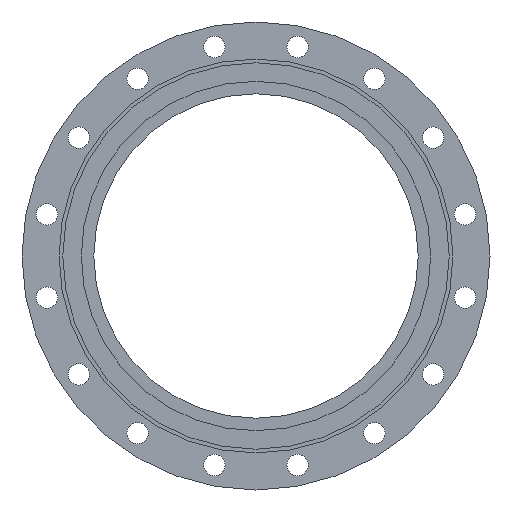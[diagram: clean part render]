
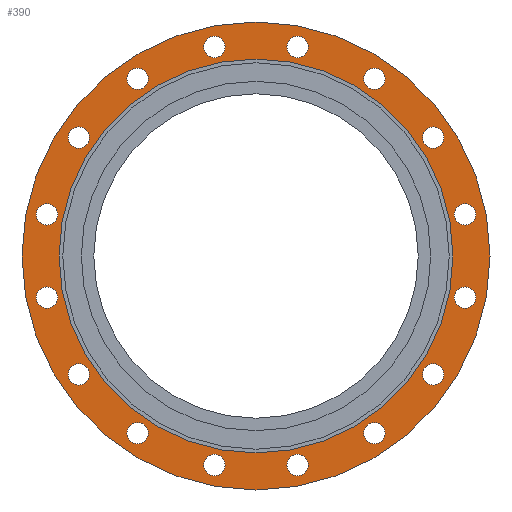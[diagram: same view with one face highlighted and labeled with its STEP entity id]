
A CAD part, left-side view. The second image highlights one B-rep face of the part: STEP entity #390.
In plain terms, the highlighted planar face has unit normal (-1, 0, 0).
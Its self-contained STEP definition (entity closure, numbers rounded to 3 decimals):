
#390=ADVANCED_FACE('',(#8469,#8471,#8473,#8475,#8477,#8479,#8481,#8483,#8485,#8487,
#8489,#8491,#8493,#8495,#8497,#8499,#8501,#8503),#8505,.T.);
#8469=FACE_BOUND('',#8470,.T.);
#8470=EDGE_LOOP('',(#14645));
#8471=FACE_BOUND('',#8472,.T.);
#8472=EDGE_LOOP('',(#14646));
#8473=FACE_BOUND('',#8474,.T.);
#8474=EDGE_LOOP('',(#14647));
#8475=FACE_BOUND('',#8476,.T.);
#8476=EDGE_LOOP('',(#14648));
#8477=FACE_BOUND('',#8478,.T.);
#8478=EDGE_LOOP('',(#14649));
#8479=FACE_BOUND('',#8480,.T.);
#8480=EDGE_LOOP('',(#14650));
#8481=FACE_BOUND('',#8482,.T.);
#8482=EDGE_LOOP('',(#14651));
#8483=FACE_BOUND('',#8484,.T.);
#8484=EDGE_LOOP('',(#14652));
#8485=FACE_BOUND('',#8486,.T.);
#8486=EDGE_LOOP('',(#14653,#14654));
#8487=FACE_BOUND('',#8488,.T.);
#8488=EDGE_LOOP('',(#14655));
#8489=FACE_BOUND('',#8490,.T.);
#8490=EDGE_LOOP('',(#14656));
#8491=FACE_BOUND('',#8492,.T.);
#8492=EDGE_LOOP('',(#14657));
#8493=FACE_BOUND('',#8494,.T.);
#8494=EDGE_LOOP('',(#14658));
#8495=FACE_BOUND('',#8496,.T.);
#8496=EDGE_LOOP('',(#14659));
#8497=FACE_BOUND('',#8498,.T.);
#8498=EDGE_LOOP('',(#14660));
#8499=FACE_BOUND('',#8500,.T.);
#8500=EDGE_LOOP('',(#14661));
#8501=FACE_BOUND('',#8502,.T.);
#8502=EDGE_LOOP('',(#14662));
#8503=FACE_BOUND('',#8504,.T.);
#8504=EDGE_LOOP('',(#14663));
#8505=PLANE('',#8506);
#8506=AXIS2_PLACEMENT_3D('',#8507,#8508,#8509);
#8507=CARTESIAN_POINT('',(22.277,211.434,0.));
#8508=DIRECTION('',(-1.,0.,0.));
#8509=DIRECTION('',(0.,0.,1.));
#14645=ORIENTED_EDGE('',*,*,#19699,.T.);
#14646=ORIENTED_EDGE('',*,*,#19669,.F.);
#14647=ORIENTED_EDGE('',*,*,#19671,.F.);
#14648=ORIENTED_EDGE('',*,*,#19673,.F.);
#14649=ORIENTED_EDGE('',*,*,#19675,.F.);
#14650=ORIENTED_EDGE('',*,*,#19677,.F.);
#14651=ORIENTED_EDGE('',*,*,#19679,.F.);
#14652=ORIENTED_EDGE('',*,*,#19681,.F.);
#14653=ORIENTED_EDGE('',*,*,#19702,.F.);
#14654=ORIENTED_EDGE('',*,*,#19703,.F.);
#14655=ORIENTED_EDGE('',*,*,#19683,.F.);
#14656=ORIENTED_EDGE('',*,*,#19685,.F.);
#14657=ORIENTED_EDGE('',*,*,#19687,.F.);
#14658=ORIENTED_EDGE('',*,*,#19689,.F.);
#14659=ORIENTED_EDGE('',*,*,#19691,.F.);
#14660=ORIENTED_EDGE('',*,*,#19693,.F.);
#14661=ORIENTED_EDGE('',*,*,#19695,.F.);
#14662=ORIENTED_EDGE('',*,*,#19697,.F.);
#14663=ORIENTED_EDGE('',*,*,#19667,.F.);
#19667=EDGE_CURVE('',#22263,#22263,#22264,.T.);
#19669=EDGE_CURVE('',#22267,#22267,#22268,.T.);
#19671=EDGE_CURVE('',#22271,#22271,#22272,.T.);
#19673=EDGE_CURVE('',#22275,#22275,#22276,.T.);
#19675=EDGE_CURVE('',#22279,#22279,#22280,.T.);
#19677=EDGE_CURVE('',#22283,#22283,#22284,.T.);
#19679=EDGE_CURVE('',#22287,#22287,#22288,.T.);
#19681=EDGE_CURVE('',#22291,#22291,#22292,.T.);
#19683=EDGE_CURVE('',#22295,#22295,#22296,.T.);
#19685=EDGE_CURVE('',#22299,#22299,#22300,.T.);
#19687=EDGE_CURVE('',#22303,#22303,#22304,.T.);
#19689=EDGE_CURVE('',#22307,#22307,#22308,.T.);
#19691=EDGE_CURVE('',#22311,#22311,#22312,.T.);
#19693=EDGE_CURVE('',#22315,#22315,#22316,.T.);
#19695=EDGE_CURVE('',#22319,#22319,#22320,.T.);
#19697=EDGE_CURVE('',#22323,#22323,#22324,.T.);
#19699=EDGE_CURVE('',#22327,#22327,#22328,.T.);
#19702=EDGE_CURVE('',#22333,#22334,#22335,.T.);
#19703=EDGE_CURVE('',#22334,#22333,#22336,.T.);
#22263=VERTEX_POINT('',#26683);
#22264=CIRCLE('',#26684,11.5);
#22267=VERTEX_POINT('',#26693);
#22268=CIRCLE('',#26694,11.5);
#22271=VERTEX_POINT('',#26703);
#22272=CIRCLE('',#26704,11.5);
#22275=VERTEX_POINT('',#26713);
#22276=CIRCLE('',#26714,11.5);
#22279=VERTEX_POINT('',#26723);
#22280=CIRCLE('',#26724,11.5);
#22283=VERTEX_POINT('',#26733);
#22284=CIRCLE('',#26734,11.5);
#22287=VERTEX_POINT('',#26743);
#22288=CIRCLE('',#26744,11.5);
#22291=VERTEX_POINT('',#26753);
#22292=CIRCLE('',#26754,11.5);
#22295=VERTEX_POINT('',#26763);
#22296=CIRCLE('',#26764,11.5);
#22299=VERTEX_POINT('',#26773);
#22300=CIRCLE('',#26774,11.5);
#22303=VERTEX_POINT('',#26783);
#22304=CIRCLE('',#26784,11.5);
#22307=VERTEX_POINT('',#26793);
#22308=CIRCLE('',#26794,11.5);
#22311=VERTEX_POINT('',#26803);
#22312=CIRCLE('',#26804,11.5);
#22315=VERTEX_POINT('',#26813);
#22316=CIRCLE('',#26814,11.5);
#22319=VERTEX_POINT('',#26823);
#22320=CIRCLE('',#26824,11.5);
#22323=VERTEX_POINT('',#26833);
#22324=CIRCLE('',#26834,11.5);
#22327=VERTEX_POINT('',#26843);
#22328=CIRCLE('',#26844,252.5);
#22333=VERTEX_POINT('',#26858);
#22334=VERTEX_POINT('',#26859);
#22335=CIRCLE('',#26860,190.5);
#22336=CIRCLE('',#26864,190.5);
#26683=CARTESIAN_POINT('',(22.277,402.672,-116.281));
#26684=AXIS2_PLACEMENT_3D('',#26685,#26686,#26687);
#26685=CARTESIAN_POINT('',(22.277,402.672,-127.781));
#26686=DIRECTION('',(-1.,0.,0.));
#26687=DIRECTION('',(0.,0.,1.));
#26693=CARTESIAN_POINT('',(22.277,437.014,56.371));
#26694=AXIS2_PLACEMENT_3D('',#26695,#26696,#26697);
#26695=CARTESIAN_POINT('',(22.277,437.014,44.871));
#26696=DIRECTION('',(-1.,0.,0.));
#26697=DIRECTION('',(0.,0.,1.));
#26703=CARTESIAN_POINT('',(22.277,339.215,202.738));
#26704=AXIS2_PLACEMENT_3D('',#26705,#26706,#26707);
#26705=CARTESIAN_POINT('',(22.277,339.215,191.238));
#26706=DIRECTION('',(-1.,0.,0.));
#26707=DIRECTION('',(0.,0.,1.));
#26713=CARTESIAN_POINT('',(22.277,166.563,237.081));
#26714=AXIS2_PLACEMENT_3D('',#26715,#26716,#26717);
#26715=CARTESIAN_POINT('',(22.277,166.563,225.581));
#26716=DIRECTION('',(-1.,0.,0.));
#26717=DIRECTION('',(0.,0.,1.));
#26723=CARTESIAN_POINT('',(22.277,20.196,139.281));
#26724=AXIS2_PLACEMENT_3D('',#26725,#26726,#26727);
#26725=CARTESIAN_POINT('',(22.277,20.196,127.781));
#26726=DIRECTION('',(-1.,0.,0.));
#26727=DIRECTION('',(0.,0.,1.));
#26733=CARTESIAN_POINT('',(22.277,-14.147,-33.371));
#26734=AXIS2_PLACEMENT_3D('',#26735,#26736,#26737);
#26735=CARTESIAN_POINT('',(22.277,-14.147,-44.871));
#26736=DIRECTION('',(-1.,0.,0.));
#26737=DIRECTION('',(0.,0.,1.));
#26743=CARTESIAN_POINT('',(22.277,83.652,-179.738));
#26744=AXIS2_PLACEMENT_3D('',#26745,#26746,#26747);
#26745=CARTESIAN_POINT('',(22.277,83.652,-191.238));
#26746=DIRECTION('',(-1.,0.,0.));
#26747=DIRECTION('',(0.,0.,1.));
#26753=CARTESIAN_POINT('',(22.277,256.304,-214.081));
#26754=AXIS2_PLACEMENT_3D('',#26755,#26756,#26757);
#26755=CARTESIAN_POINT('',(22.277,256.304,-225.581));
#26756=DIRECTION('',(-1.,0.,0.));
#26757=DIRECTION('',(0.,0.,1.));
#26763=CARTESIAN_POINT('',(22.277,166.563,-214.081));
#26764=AXIS2_PLACEMENT_3D('',#26765,#26766,#26767);
#26765=CARTESIAN_POINT('',(22.277,166.563,-225.581));
#26766=DIRECTION('',(-1.,0.,0.));
#26767=DIRECTION('',(0.,0.,1.));
#26773=CARTESIAN_POINT('',(22.277,20.196,-116.281));
#26774=AXIS2_PLACEMENT_3D('',#26775,#26776,#26777);
#26775=CARTESIAN_POINT('',(22.277,20.196,-127.781));
#26776=DIRECTION('',(-1.,0.,0.));
#26777=DIRECTION('',(0.,0.,1.));
#26783=CARTESIAN_POINT('',(22.277,-14.147,56.371));
#26784=AXIS2_PLACEMENT_3D('',#26785,#26786,#26787);
#26785=CARTESIAN_POINT('',(22.277,-14.147,44.871));
#26786=DIRECTION('',(-1.,0.,0.));
#26787=DIRECTION('',(0.,0.,1.));
#26793=CARTESIAN_POINT('',(22.277,83.652,202.738));
#26794=AXIS2_PLACEMENT_3D('',#26795,#26796,#26797);
#26795=CARTESIAN_POINT('',(22.277,83.652,191.238));
#26796=DIRECTION('',(-1.,0.,0.));
#26797=DIRECTION('',(0.,0.,1.));
#26803=CARTESIAN_POINT('',(22.277,256.304,237.081));
#26804=AXIS2_PLACEMENT_3D('',#26805,#26806,#26807);
#26805=CARTESIAN_POINT('',(22.277,256.304,225.581));
#26806=DIRECTION('',(-1.,0.,0.));
#26807=DIRECTION('',(0.,0.,1.));
#26813=CARTESIAN_POINT('',(22.277,402.672,139.281));
#26814=AXIS2_PLACEMENT_3D('',#26815,#26816,#26817);
#26815=CARTESIAN_POINT('',(22.277,402.672,127.781));
#26816=DIRECTION('',(-1.,0.,0.));
#26817=DIRECTION('',(0.,0.,1.));
#26823=CARTESIAN_POINT('',(22.277,437.014,-33.371));
#26824=AXIS2_PLACEMENT_3D('',#26825,#26826,#26827);
#26825=CARTESIAN_POINT('',(22.277,437.014,-44.871));
#26826=DIRECTION('',(-1.,0.,0.));
#26827=DIRECTION('',(0.,0.,1.));
#26833=CARTESIAN_POINT('',(22.277,339.215,-179.738));
#26834=AXIS2_PLACEMENT_3D('',#26835,#26836,#26837);
#26835=CARTESIAN_POINT('',(22.277,339.215,-191.238));
#26836=DIRECTION('',(-1.,0.,0.));
#26837=DIRECTION('',(0.,0.,1.));
#26843=CARTESIAN_POINT('',(22.277,211.434,252.5));
#26844=AXIS2_PLACEMENT_3D('',#26845,#26846,#26847);
#26845=CARTESIAN_POINT('',(22.277,211.434,0.));
#26846=DIRECTION('',(-1.,0.,0.));
#26847=DIRECTION('',(0.,0.,1.));
#26858=CARTESIAN_POINT('',(22.277,76.73,134.704));
#26859=CARTESIAN_POINT('',(22.277,211.434,190.5));
#26860=AXIS2_PLACEMENT_3D('',#26861,#26862,#26863);
#26861=CARTESIAN_POINT('',(22.277,211.434,0.));
#26862=DIRECTION('',(-1.,0.,0.));
#26863=DIRECTION('',(0.,-0.707,0.707));
#26864=AXIS2_PLACEMENT_3D('',#26865,#26866,#26867);
#26865=CARTESIAN_POINT('',(22.277,211.434,0.));
#26866=DIRECTION('',(-1.,0.,0.));
#26867=DIRECTION('',(0.,0.,1.));
